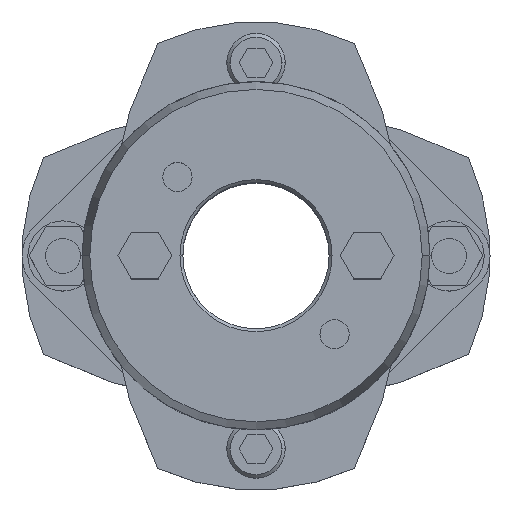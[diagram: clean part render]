
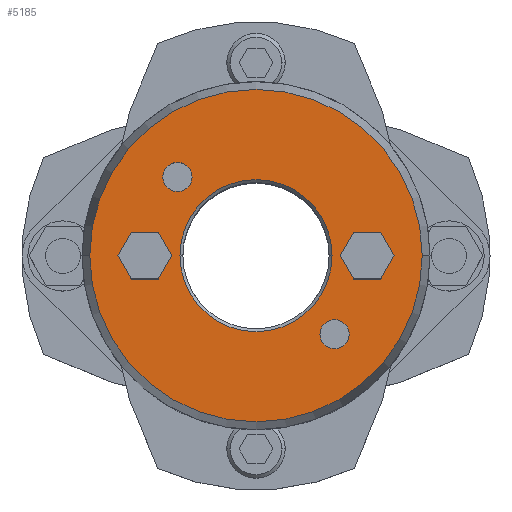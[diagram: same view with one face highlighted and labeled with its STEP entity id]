
A CAD part, top view. The second image highlights one B-rep face of the part: STEP entity #5185.
In plain terms, the highlighted planar face has unit normal (0, 0, 1).
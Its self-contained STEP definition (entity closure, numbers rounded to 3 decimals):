
#857=CARTESIAN_POINT('',(-13.,0.,35.875));
#858=VERTEX_POINT('',#857);
#874=CARTESIAN_POINT('',(13.,0.,35.875));
#875=VERTEX_POINT('',#874);
#882=CARTESIAN_POINT('',(0.,0.,35.875));
#883=DIRECTION('',(0.0,0.0,1.0));
#884=DIRECTION('',(-1.0,0.0,0.0));
#885=AXIS2_PLACEMENT_3D('',#882,#883,#884);
#886=CIRCLE('',#885,13.0);
#887=EDGE_CURVE('',#875,#858,#886,.T.);
#1003=CARTESIAN_POINT('',(28.41,0.,35.875));
#1004=VERTEX_POINT('',#1003);
#1013=CARTESIAN_POINT('',(-28.41,0.,35.875));
#1014=VERTEX_POINT('',#1013);
#1015=CARTESIAN_POINT('',(0.,0.,35.875));
#1016=DIRECTION('',(0.0,0.0,-1.0));
#1017=DIRECTION('',(1.0,0.0,0.0));
#1018=AXIS2_PLACEMENT_3D('',#1015,#1016,#1017);
#1019=CIRCLE('',#1018,28.41);
#1020=EDGE_CURVE('',#1004,#1014,#1019,.T.);
#1189=CARTESIAN_POINT('',(-15.935,13.435,35.875));
#1190=VERTEX_POINT('',#1189);
#1206=CARTESIAN_POINT('',(-10.935,13.435,35.875));
#1207=VERTEX_POINT('',#1206);
#1214=CARTESIAN_POINT('',(-13.435,13.435,35.875));
#1215=DIRECTION('',(0.0,0.0,-1.0));
#1216=DIRECTION('',(-1.0,0.0,0.0));
#1217=AXIS2_PLACEMENT_3D('',#1214,#1215,#1216);
#1218=CIRCLE('',#1217,2.5);
#1219=EDGE_CURVE('',#1190,#1207,#1218,.T.);
#1231=CARTESIAN_POINT('',(10.935,-13.435,35.875));
#1232=VERTEX_POINT('',#1231);
#1248=CARTESIAN_POINT('',(15.935,-13.435,35.875));
#1249=VERTEX_POINT('',#1248);
#1256=CARTESIAN_POINT('',(13.435,-13.435,35.875));
#1257=DIRECTION('',(0.0,0.0,-1.0));
#1258=DIRECTION('',(-1.0,0.0,0.0));
#1259=AXIS2_PLACEMENT_3D('',#1256,#1257,#1258);
#1260=CIRCLE('',#1259,2.5);
#1261=EDGE_CURVE('',#1232,#1249,#1260,.T.);
#4311=CARTESIAN_POINT('',(14.381,0.,35.875));
#4312=VERTEX_POINT('',#4311);
#4319=CARTESIAN_POINT('',(16.691,-4.,35.875));
#4320=VERTEX_POINT('',#4319);
#4321=CARTESIAN_POINT('',(16.691,-4.,35.875));
#4322=DIRECTION('',(-0.5,0.866,0.0));
#4323=VECTOR('',#4322,4.619);
#4324=LINE('',#4321,#4323);
#4325=EDGE_CURVE('',#4320,#4312,#4324,.T.);
#4349=CARTESIAN_POINT('',(16.691,4.,35.875));
#4350=VERTEX_POINT('',#4349);
#4357=CARTESIAN_POINT('',(14.381,0.,35.875));
#4358=DIRECTION('',(0.5,0.866,0.0));
#4359=VECTOR('',#4358,4.619);
#4360=LINE('',#4357,#4359);
#4361=EDGE_CURVE('',#4312,#4350,#4360,.T.);
#4380=CARTESIAN_POINT('',(21.309,4.,35.875));
#4381=VERTEX_POINT('',#4380);
#4388=CARTESIAN_POINT('',(16.691,4.,35.875));
#4389=DIRECTION('',(1.0,0.0,0.0));
#4390=VECTOR('',#4389,4.619);
#4391=LINE('',#4388,#4390);
#4392=EDGE_CURVE('',#4350,#4381,#4391,.T.);
#4411=CARTESIAN_POINT('',(23.619,0.,35.875));
#4412=VERTEX_POINT('',#4411);
#4419=CARTESIAN_POINT('',(21.309,4.,35.875));
#4420=DIRECTION('',(0.5,-0.866,0.0));
#4421=VECTOR('',#4420,4.619);
#4422=LINE('',#4419,#4421);
#4423=EDGE_CURVE('',#4381,#4412,#4422,.T.);
#4442=CARTESIAN_POINT('',(21.309,-4.,35.875));
#4443=VERTEX_POINT('',#4442);
#4450=CARTESIAN_POINT('',(23.619,0.,35.875));
#4451=DIRECTION('',(-0.5,-0.866,0.0));
#4452=VECTOR('',#4451,4.619);
#4453=LINE('',#4450,#4452);
#4454=EDGE_CURVE('',#4412,#4443,#4453,.T.);
#4472=CARTESIAN_POINT('',(21.309,-4.,35.875));
#4473=DIRECTION('',(-1.0,0.0,0.0));
#4474=VECTOR('',#4473,4.619);
#4475=LINE('',#4472,#4474);
#4476=EDGE_CURVE('',#4443,#4320,#4475,.T.);
#4511=CARTESIAN_POINT('',(-23.619,0.,35.875));
#4512=VERTEX_POINT('',#4511);
#4519=CARTESIAN_POINT('',(-21.309,-4.,35.875));
#4520=VERTEX_POINT('',#4519);
#4521=CARTESIAN_POINT('',(-21.309,-4.,35.875));
#4522=DIRECTION('',(-0.5,0.866,0.0));
#4523=VECTOR('',#4522,4.619);
#4524=LINE('',#4521,#4523);
#4525=EDGE_CURVE('',#4520,#4512,#4524,.T.);
#4549=CARTESIAN_POINT('',(-21.309,4.,35.875));
#4550=VERTEX_POINT('',#4549);
#4557=CARTESIAN_POINT('',(-23.619,0.,35.875));
#4558=DIRECTION('',(0.5,0.866,0.0));
#4559=VECTOR('',#4558,4.619);
#4560=LINE('',#4557,#4559);
#4561=EDGE_CURVE('',#4512,#4550,#4560,.T.);
#4580=CARTESIAN_POINT('',(-16.691,4.,35.875));
#4581=VERTEX_POINT('',#4580);
#4588=CARTESIAN_POINT('',(-21.309,4.,35.875));
#4589=DIRECTION('',(1.0,0.0,0.0));
#4590=VECTOR('',#4589,4.619);
#4591=LINE('',#4588,#4590);
#4592=EDGE_CURVE('',#4550,#4581,#4591,.T.);
#4611=CARTESIAN_POINT('',(-14.381,0.,35.875));
#4612=VERTEX_POINT('',#4611);
#4619=CARTESIAN_POINT('',(-16.691,4.,35.875));
#4620=DIRECTION('',(0.5,-0.866,0.0));
#4621=VECTOR('',#4620,4.619);
#4622=LINE('',#4619,#4621);
#4623=EDGE_CURVE('',#4581,#4612,#4622,.T.);
#4642=CARTESIAN_POINT('',(-16.691,-4.,35.875));
#4643=VERTEX_POINT('',#4642);
#4650=CARTESIAN_POINT('',(-14.381,0.,35.875));
#4651=DIRECTION('',(-0.5,-0.866,0.0));
#4652=VECTOR('',#4651,4.619);
#4653=LINE('',#4650,#4652);
#4654=EDGE_CURVE('',#4612,#4643,#4653,.T.);
#4672=CARTESIAN_POINT('',(-16.691,-4.,35.875));
#4673=DIRECTION('',(-1.0,0.0,0.0));
#4674=VECTOR('',#4673,4.619);
#4675=LINE('',#4672,#4674);
#4676=EDGE_CURVE('',#4643,#4520,#4675,.T.);
#4702=CARTESIAN_POINT('',(13.435,-13.435,35.875));
#4703=DIRECTION('',(0.0,0.0,-1.0));
#4704=DIRECTION('',(-1.0,0.0,0.0));
#4705=AXIS2_PLACEMENT_3D('',#4702,#4703,#4704);
#4706=CIRCLE('',#4705,2.5);
#4707=EDGE_CURVE('',#1249,#1232,#4706,.T.);
#4736=CARTESIAN_POINT('',(-13.435,13.435,35.875));
#4737=DIRECTION('',(0.0,0.0,-1.0));
#4738=DIRECTION('',(-1.0,0.0,0.0));
#4739=AXIS2_PLACEMENT_3D('',#4736,#4737,#4738);
#4740=CIRCLE('',#4739,2.5);
#4741=EDGE_CURVE('',#1207,#1190,#4740,.T.);
#5132=CARTESIAN_POINT('',(0.,0.,35.875));
#5133=DIRECTION('',(0.0,0.0,-1.0));
#5134=DIRECTION('',(1.0,0.0,0.0));
#5135=AXIS2_PLACEMENT_3D('',#5132,#5133,#5134);
#5136=CIRCLE('',#5135,28.41);
#5137=EDGE_CURVE('',#1014,#1004,#5136,.T.);
#5142=CARTESIAN_POINT('',(-2.364,0.,35.875));
#5143=DIRECTION('',(0.0,0.0,1.0));
#5144=DIRECTION('',(-1.0,0.0,0.0));
#5145=AXIS2_PLACEMENT_3D('',#5142,#5143,#5144);
#5146=PLANE('',#5145);
#5147=ORIENTED_EDGE('',*,*,#5137,.F.);
#5148=ORIENTED_EDGE('',*,*,#1020,.F.);
#5149=EDGE_LOOP('',(#5147,#5148));
#5150=FACE_OUTER_BOUND('',#5149,.T.);
#5151=ORIENTED_EDGE('',*,*,#4325,.T.);
#5152=ORIENTED_EDGE('',*,*,#4361,.T.);
#5153=ORIENTED_EDGE('',*,*,#4392,.T.);
#5154=ORIENTED_EDGE('',*,*,#4423,.T.);
#5155=ORIENTED_EDGE('',*,*,#4454,.T.);
#5156=ORIENTED_EDGE('',*,*,#4476,.T.);
#5157=EDGE_LOOP('',(#5151,#5152,#5153,#5154,#5155,#5156));
#5158=FACE_BOUND('',#5157,.T.);
#5159=ORIENTED_EDGE('',*,*,#4525,.T.);
#5160=ORIENTED_EDGE('',*,*,#4561,.T.);
#5161=ORIENTED_EDGE('',*,*,#4592,.T.);
#5162=ORIENTED_EDGE('',*,*,#4623,.T.);
#5163=ORIENTED_EDGE('',*,*,#4654,.T.);
#5164=ORIENTED_EDGE('',*,*,#4676,.T.);
#5165=EDGE_LOOP('',(#5159,#5160,#5161,#5162,#5163,#5164));
#5166=FACE_BOUND('',#5165,.T.);
#5167=ORIENTED_EDGE('',*,*,#1261,.T.);
#5168=ORIENTED_EDGE('',*,*,#4707,.T.);
#5169=EDGE_LOOP('',(#5167,#5168));
#5170=FACE_BOUND('',#5169,.T.);
#5171=ORIENTED_EDGE('',*,*,#1219,.T.);
#5172=ORIENTED_EDGE('',*,*,#4741,.T.);
#5173=EDGE_LOOP('',(#5171,#5172));
#5174=FACE_BOUND('',#5173,.T.);
#5175=ORIENTED_EDGE('',*,*,#887,.F.);
#5176=CARTESIAN_POINT('',(0.,0.,35.875));
#5177=DIRECTION('',(0.0,0.0,1.0));
#5178=DIRECTION('',(-1.0,0.0,0.0));
#5179=AXIS2_PLACEMENT_3D('',#5176,#5177,#5178);
#5180=CIRCLE('',#5179,13.0);
#5181=EDGE_CURVE('',#858,#875,#5180,.T.);
#5182=ORIENTED_EDGE('',*,*,#5181,.F.);
#5183=EDGE_LOOP('',(#5175,#5182));
#5184=FACE_BOUND('',#5183,.T.);
#5185=ADVANCED_FACE('',(#5150,#5158,#5166,#5170,#5174,#5184),#5146,.T.);
